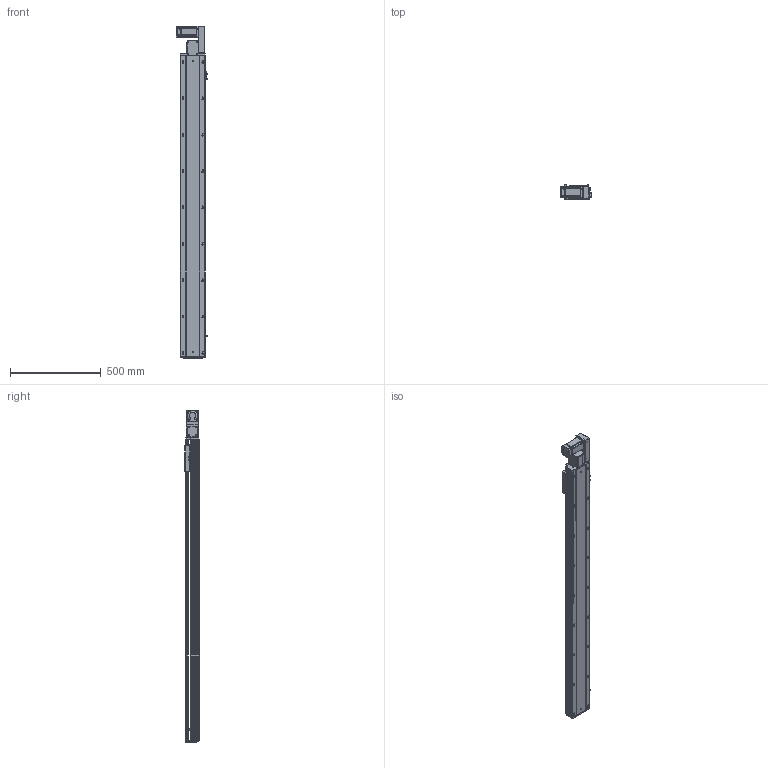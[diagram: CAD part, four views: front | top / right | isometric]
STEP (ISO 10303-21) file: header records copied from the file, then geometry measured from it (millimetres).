
FILE_DESCRIPTION (( 'STEP AP203' ), '1' );
FILE_NAME ('RY140-T-300-RK.SLDASM_1400.step', '2021-03-01T06:46:23', ( '盈信电脑' ), ( '东莞市道滘镇水果街19号' ), 'SwSTEP 2.0', 'SolidWorks 2012', '' );
FILE_SCHEMA (( 'CONFIG_CONTROL_DESIGN' ));
Length unit declared in the file: millimetre
Products named in the file (17): RY140-T-300-RK.SLDASM_1400; RY120-T主同步轮轴承压盖; RY140-T萇儂欶; 15; RY140-T萇儂假蚾啣; RY120-T蹟翐M4; RY120-T肮祭湍揤踡輸1; RY140-T翋肮謫裔啣; RY140-T翋肮祭謫盓傅釱; 滅袉蝶18-10; RY120外置感应片(140共用）; RY120-T肮祭湍揤踡輸2; RY140綴裔啣; 覜茼ん672; RY140肮祭謫臏賑輸; RY140-T-300-DR倰第奻裔啣_1400; RY140-T-300-DR倰第菁釱_1400
Assembly tree (22 placements, depth 2):
  RY140-T-300-RK.SLDASM_1400
    RY140-T-300-DR倰第菁釱_1400
    RY140肮祭謫臏賑輸
    RY140-T-300-DR倰第奻裔啣_1400
    RY140綴裔啣
    覜茼ん672  x3
    RY120外置感应片(140共用）
    RY120-T肮祭湍揤踡輸2
    RY120-T肮祭湍揤踡輸1
    RY140-T翋肮祭謫盓傅釱
    滅袉蝶18-10  x2
    RY140-T翋肮謫裔啣
    RY140-T萇儂欶
    RY140-T萇儂假蚾啣
    RY120-T蹟翐M4  x4
    15
    RY120-T主同步轮轴承压盖
Bounding box: 170.7 x 78 x 1826.5 mm (x, y, z)
Volume: 4953832.9 mm3; surface area: 1914724.7 mm2
Topology: 22 solids, 22 shells, 2755 faces, 7549 edges, 4826 vertices
Faces by surface type: plane 1385, cylinder 1024, cone 246, bspline 100
Entity records: 86978 total; most frequent: CARTESIAN_POINT 21189, ORIENTED_EDGE 13530, DIRECTION 12897, EDGE_CURVE 6765, VERTEX_POINT 4425, AXIS2_PLACEMENT_3D 4302, VECTOR 4293, LINE 4293
